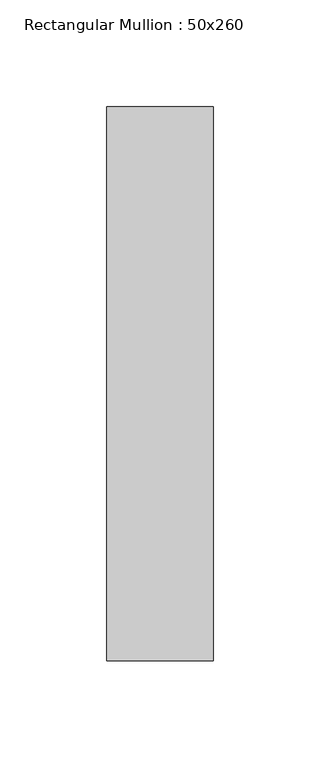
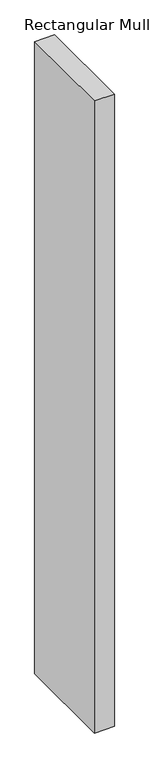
"""IFC4 building model written with IfcOpenShell, lengths in millimetres: member geometry, Rectangular Mullion : 50x260."""

import ifcopenshell
import ifcopenshell.guid

model = None  # the IFC model being written
_history = None  # IfcOwnerHistory: only IFC2X3 demands one
_inside = {}  # id of a spatial element -> (the spatial element, [elements in it])
_under = {}  # id of a project, library or spatial element -> (it, [spatial elements below it])
_declared = {}  # id of a project -> (the project, [libraries it declares])
_typed = {}  # id of a type object -> (the type object, [elements of that type])
_made_of = {}  # id of a material, layer set ... -> (it, [elements and type objects made of it])


def new_model(schema):
    """Start an empty IFC model of exactly this schema.

    Asked for "IFC4X3", IfcOpenShell would pick the latest addendum, in which some entities
    have other attributes; the version numbers below select the first issue.
    IFC2X3 requires an IfcOwnerHistory on every rooted entity: one is made here for all.
    """
    global model, _history
    if schema == "IFC4X3":
        model = ifcopenshell.file(schema_version=(4, 3, 0, 0))
    else:
        model = ifcopenshell.file(schema=schema)
    _inside.clear()
    _under.clear()
    _declared.clear()
    _typed.clear()
    _made_of.clear()
    _history = None
    if model.schema == "IFC2X3":
        org = make("IfcOrganization", Name="unknown")
        user = make(
            "IfcPersonAndOrganization",
            ThePerson=make("IfcPerson", FamilyName="unknown"),
            TheOrganization=org,
        )
        app = make(
            "IfcApplication",
            ApplicationDeveloper=org,
            Version="unknown",
            ApplicationFullName="unknown",
            ApplicationIdentifier="unknown",
        )
        _history = make(
            "IfcOwnerHistory",
            OwningUser=user,
            OwningApplication=app,
            ChangeAction="ADDED",
            CreationDate=0,
        )
    return model


def make(cls, **values):
    """One entity of the class cls with the attributes given. An attribute that is None is left unset."""
    return model.create_entity(
        cls, **{name: value for name, value in values.items() if value is not None}
    )


def rooted(cls, **values):
    """An entity with a GlobalId (a new one), such as an element, a storey or a relation."""
    return make(cls, GlobalId=ifcopenshell.guid.new(), OwnerHistory=_history, **values)


def si_unit(unit_type, name, prefix=None):
    """IfcSIUnit, for example si_unit("LENGTHUNIT", "METRE", prefix="MILLI")."""
    return make("IfcSIUnit", UnitType=unit_type, Prefix=prefix, Name=name)


def assignment(units):
    """IfcUnitAssignment: the units of a project."""
    return None if units is None else make("IfcUnitAssignment", Units=units)


def point(xyz):
    """IfcCartesianPoint."""
    return None if xyz is None else make("IfcCartesianPoint", Coordinates=xyz)


def direction(xyz):
    """IfcDirection."""
    return None if xyz is None else make("IfcDirection", DirectionRatios=xyz)


def frame(location, z_axis=None, x_axis=None):
    """IfcAxis2Placement3D, a coordinate frame: its origin and axes. An axis left out is left unset."""
    return make(
        "IfcAxis2Placement3D",
        Location=point(location),
        Axis=direction(z_axis),
        RefDirection=direction(x_axis),
    )


def origin():
    """The frame at (0, 0, 0) with its axes left unset."""
    return frame((0.0, 0.0, 0.0))


def place(relative_to, where):
    """IfcLocalPlacement: puts the frame where relative to a parent placement (None: the world)."""
    return make(
        "IfcLocalPlacement", PlacementRelTo=relative_to, RelativePlacement=where
    )


def context(
    kind, dimensions, precision=None, world=None, true_north=None, identifier=None
):
    """IfcGeometricRepresentationContext, for example the 3D "Model" context."""
    return make(
        "IfcGeometricRepresentationContext",
        ContextIdentifier=identifier,
        ContextType=kind,
        CoordinateSpaceDimension=dimensions,
        Precision=precision,
        WorldCoordinateSystem=world,
        TrueNorth=true_north,
    )


def project(units=None, contexts=None):
    """IfcProject with its units and contexts."""
    return rooted(
        "IfcProject",
        Name="project",
        RepresentationContexts=contexts,
        UnitsInContext=assignment(units),
    )


def spatial(cls, under=None, at=None, **own):
    """A site, building, storey or space (cls), placed at a placement, below another one or the project."""
    s = rooted(cls, ObjectPlacement=at, **own)
    if under is not None:
        _under.setdefault(under.id(), (under, []))[1].append(s)
    return s


def polyline(points):
    """IfcPolyline through the points."""
    return make("IfcPolyline", Points=[point(p) for p in points])


def outline(outer, holes=None, kind="AREA"):
    """IfcArbitraryClosedProfileDef: a profile drawn as a closed curve; with holes, ...WithVoids."""
    if holes is None:
        return make("IfcArbitraryClosedProfileDef", ProfileType=kind, OuterCurve=outer)
    return make(
        "IfcArbitraryProfileDefWithVoids",
        ProfileType=kind,
        OuterCurve=outer,
        InnerCurves=holes,
    )


def extrude(swept, where, along, depth):
    """IfcExtrudedAreaSolid: the profile swept, set in the frame where, extruded along a direction by depth."""
    return make(
        "IfcExtrudedAreaSolid",
        SweptArea=swept,
        Position=where,
        ExtrudedDirection=direction(along),
        Depth=depth,
    )


def shape(context_of_items, identifier, shape_type, items):
    """IfcShapeRepresentation: the items that make up one representation, for example the "Body"."""
    return make(
        "IfcShapeRepresentation",
        ContextOfItems=context_of_items,
        RepresentationIdentifier=identifier,
        RepresentationType=shape_type,
        Items=items,
    )


def source(mapping_origin, context_of_items, identifier, shape_type, items):
    """IfcRepresentationMap: a shape defined once, which mapped items show again and again."""
    return make(
        "IfcRepresentationMap",
        MappingOrigin=mapping_origin,
        MappedRepresentation=shape(context_of_items, identifier, shape_type, items),
    )


def transform(
    local_origin,
    x_axis=None,
    y_axis=None,
    z_axis=None,
    scale=None,
    scale2=None,
    scale3=None,
    uniform=True,
):
    """IfcCartesianTransformationOperator3D, or its non-uniform kind. x_axis, y_axis, z_axis: its Axis1, 2, 3."""
    if uniform:
        return make(
            "IfcCartesianTransformationOperator3D",
            Axis1=direction(x_axis),
            Axis2=direction(y_axis),
            LocalOrigin=point(local_origin),
            Scale=scale,
            Axis3=direction(z_axis),
        )
    return make(
        "IfcCartesianTransformationOperator3DnonUniform",
        Axis1=direction(x_axis),
        Axis2=direction(y_axis),
        LocalOrigin=point(local_origin),
        Scale=scale,
        Axis3=direction(z_axis),
        Scale2=scale2,
        Scale3=scale3,
    )


def mapped(mapping_source, mapping_target):
    """IfcMappedItem: shows the shape of a source again, moved by a transform."""
    return make(
        "IfcMappedItem", MappingSource=mapping_source, MappingTarget=mapping_target
    )


def made_of(thing, what):
    """Note that an element or type object is made of a material, layer set ...; save() writes the relation."""
    if what is not None:
        _made_of.setdefault(what.id(), (what, []))[1].append(thing)
    return thing


def element(
    cls,
    number,
    at=None,
    inside=None,
    cuts=None,
    type_object=None,
    material=None,
    context=None,
    identifier="Body",
    shape_type=None,
    held_by="IfcProductDefinitionShape",
    body=None,
    shapes=None,
    **own,
):
    """One element of the class cls, such as IfcWall. Its Tag is "e" and its number.

    at: its placement. inside: the storey or other place that contains it. cuts: it is an
    opening in that element (IfcRelVoidsElement). A single representation is given by context,
    identifier, shape_type and body (its items); several are given by shapes. held_by: the class
    of the entity that holds the representations. save() writes the other relations.
    """
    e = rooted(cls, Tag="e%d" % number, ObjectPlacement=at, **own)
    if body is not None:
        shapes = [shape(context, identifier, shape_type, body)]
    if shapes is not None:
        e.Representation = make(held_by, Representations=shapes)
    if inside is not None:
        _inside.setdefault(inside.id(), (inside, []))[1].append(e)
    if cuts is not None:
        rooted(
            "IfcRelVoidsElement", RelatingBuildingElement=cuts, RelatedOpeningElement=e
        )
    if type_object is not None:
        _typed.setdefault(type_object.id(), (type_object, []))[1].append(e)
    return made_of(e, material)


def aggregate(whole, parts):
    """IfcRelAggregates: a whole, such as a stair, and the parts it consists of."""
    return rooted("IfcRelAggregates", RelatingObject=whole, RelatedObjects=parts)


def save(model, path):
    """Write the relations noted so far, then the file.

    IfcRelAggregates (storeys below a building ...), IfcRelContainedInSpatialStructure (elements
    in a storey), IfcRelDefinesByType, IfcRelAssociatesMaterial and IfcRelDeclares: one each for
    every whole, place, type object, material and project.
    """
    for whole, parts in _under.values():
        aggregate(whole, parts)
    for where, things in _inside.values():
        rooted(
            "IfcRelContainedInSpatialStructure",
            RelatedElements=things,
            RelatingStructure=where,
        )
    for kind, things in _typed.values():
        rooted("IfcRelDefinesByType", RelatedObjects=things, RelatingType=kind)
    for what, things in _made_of.values():
        rooted("IfcRelAssociatesMaterial", RelatedObjects=things, RelatingMaterial=what)
    for by, libraries in _declared.values():
        rooted("IfcRelDeclares", RelatingContext=by, RelatedDefinitions=libraries)
    model.write(path)


def rectangular_mullion_50x260_042d784f(model_context):
    return source(origin(), model_context, "Body", "SweptSolid", [
        extrude(outline(polyline([(0.0, 130.0), (0.0, -130.0), (-50.0, -130.0), (-50.0, 130.0), (0.0, 130.0)])), frame((0.0, 0.0, -1678.9838761), z_axis=(0.0, 0.0, 1.0), x_axis=(1.0, 0.0, 0.0)), (0.0, 0.0, 1.0), 1678.9838761),
    ])


if __name__ == "__main__":
    model = new_model("IFC4")
    model_context = context("Model", 3, world=origin())
    ifc_project = project(units=[si_unit("LENGTHUNIT", "METRE", prefix="MILLI")], contexts=[model_context])
    site = spatial("IfcSite", under=ifc_project)
    building = spatial("IfcBuilding", under=site)
    placement = place(None, origin())
    rectangular_mullion_50x260_shape = rectangular_mullion_50x260_042d784f(model_context)
    element("IfcMember", 1, ObjectType="Rectangular Mullion : 50x260", at=placement, inside=building, context=model_context, shape_type="MappedRepresentation", body=[
        mapped(rectangular_mullion_50x260_shape, transform((0.0, 0.0, 0.0), x_axis=(1.0, 0.0, 0.0), y_axis=(0.0, 1.0, 0.0), z_axis=(0.0, 0.0, 1.0))),
    ])
    save(model, "model.ifc")
